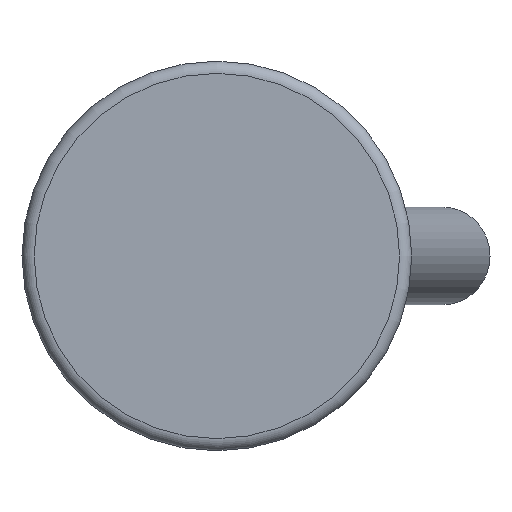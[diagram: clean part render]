
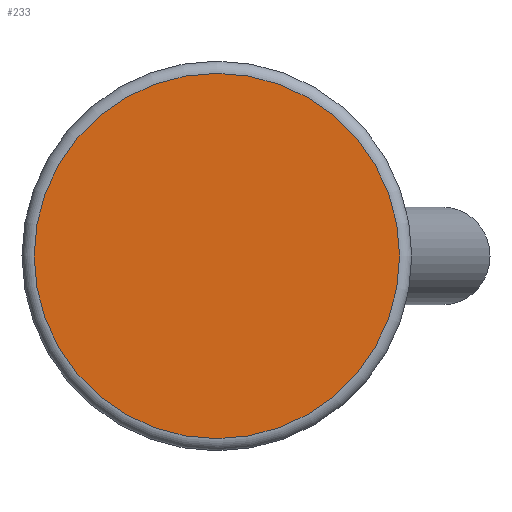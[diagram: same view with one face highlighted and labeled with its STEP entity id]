
A CAD part, front view. The second image highlights one B-rep face of the part: STEP entity #233.
In plain terms, the highlighted planar face has unit normal (0, -1, 0).
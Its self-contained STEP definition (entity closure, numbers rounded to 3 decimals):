
#233 = ADVANCED_FACE( '', ( #441 ), #442, .F. );
#441 = FACE_OUTER_BOUND( '', #623, .T. );
#442 = PLANE( '', #624 );
#623 = EDGE_LOOP( '', ( #1001 ) );
#624 = AXIS2_PLACEMENT_3D( '', #1002, #1003, #1004 );
#1001 = ORIENTED_EDGE( '', *, *, #1110, .T. );
#1002 = CARTESIAN_POINT( '', ( 15., 0., 0. ) );
#1003 = DIRECTION( '', ( 0., 1., 0. ) );
#1004 = DIRECTION( '', ( 0., 0., 1. ) );
#1110 = EDGE_CURVE( '', #1302, #1302, #1303, .T. );
#1302 = VERTEX_POINT( '', #1723 );
#1303 = CIRCLE( '', #1724, 15. );
#1723 = CARTESIAN_POINT( '', ( 0., 0., -15. ) );
#1724 = AXIS2_PLACEMENT_3D( '', #1890, #1891, #1892 );
#1890 = CARTESIAN_POINT( '', ( 0., 0., 0. ) );
#1891 = DIRECTION( '', ( 0., -1., 0. ) );
#1892 = DIRECTION( '', ( 0., 0., -1. ) );
